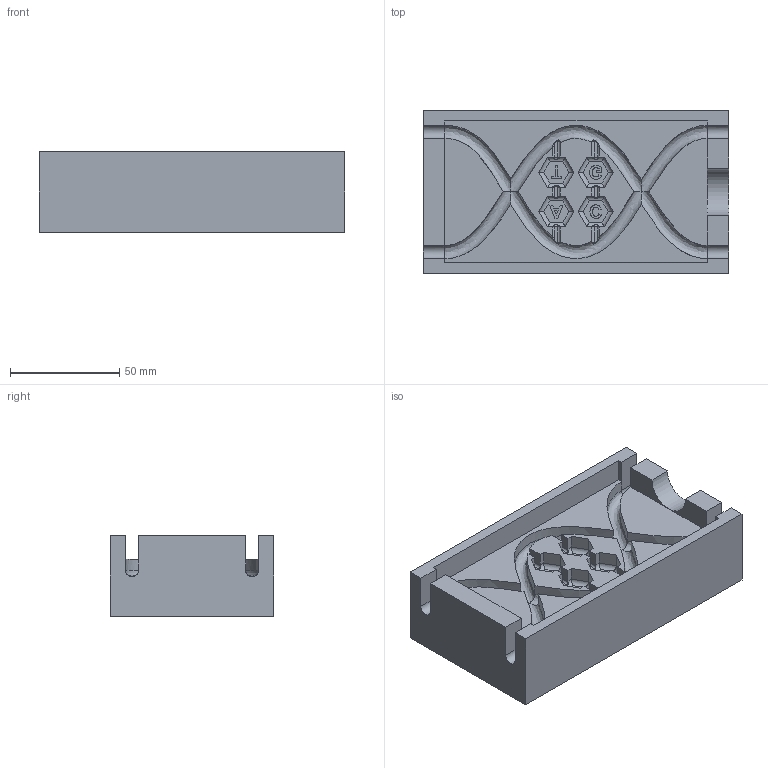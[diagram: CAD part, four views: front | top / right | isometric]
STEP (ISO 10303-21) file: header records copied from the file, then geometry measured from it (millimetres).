
FILE_DESCRIPTION(/* description */ (''),/* implementation_level */ '2;1');
FILE_NAME(/* name */ 'C:/Users/Quentin/Documents/FabAcademy/Fusion360/DNA_keypad/20210425_DNA_keypad_bottom_mold.step',/* time_stamp */ '2021-04-25T11:09:43+02:00',/* author */ (''),/* organization */ (''),/* preprocessor_version */ 'ST-DEVELOPER v18.1',/* originating_system */ 'Autodesk Translation Framework v10.6.0.1341',/* authorisation */ '');
FILE_SCHEMA (('AUTOMOTIVE_DESIGN { 1 0 10303 214 3 1 1 }'));
Length unit declared in the file: millimetre
Products named in the file (2): DNA_keypad_v2; Mold_bottom
Assembly tree (1 placements, depth 2):
  DNA_keypad_v2
    Mold_bottom
Bounding box: 140 x 75 x 37 mm (x, y, z)
Volume: 277487.6 mm3; surface area: 47181.5 mm2
Topology: 1 solids, 1 shells, 277 faces, 711 edges, 441 vertices
Faces by surface type: plane 120, cylinder 71, bspline 70, torus 16
Entity records: 10293 total; most frequent: CARTESIAN_POINT 4049, ORIENTED_EDGE 1422, DIRECTION 1056, EDGE_CURVE 711, VERTEX_POINT 441, LINE 416, VECTOR 416, AXIS2_PLACEMENT_3D 320
